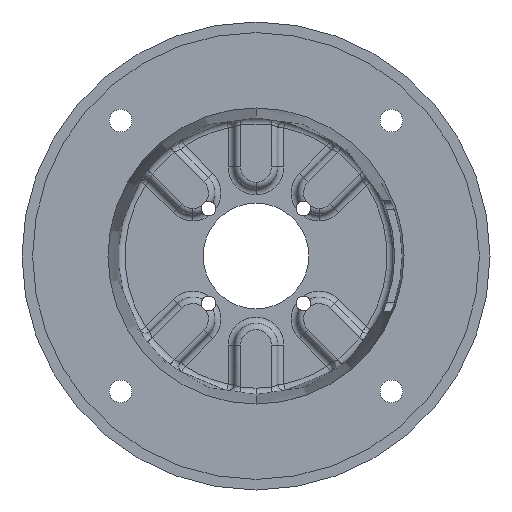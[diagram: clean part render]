
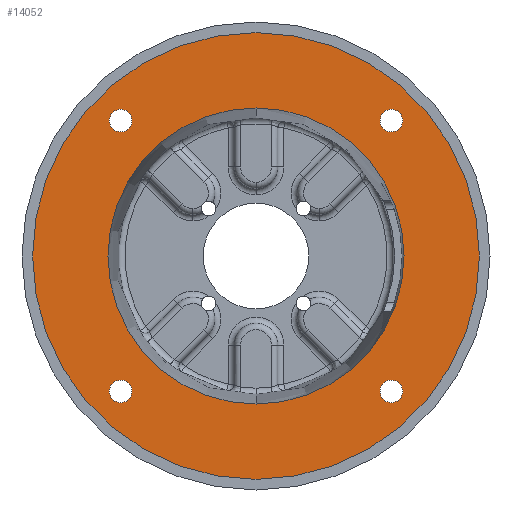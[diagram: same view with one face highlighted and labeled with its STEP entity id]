
A CAD part, front view. The second image highlights one B-rep face of the part: STEP entity #14052.
In plain terms, the highlighted planar face has unit normal (0, -1, 0).
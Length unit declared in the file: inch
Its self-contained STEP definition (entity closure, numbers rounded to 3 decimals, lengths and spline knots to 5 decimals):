
#286 = CIRCLE ( 'NONE', #4223, 0.26562 ) ;
#324 = CARTESIAN_POINT ( 'NONE',  ( 0., 0.18, -3.47973 ) ) ;
#483 = VERTEX_POINT ( 'NONE', #11186 ) ;
#559 = CARTESIAN_POINT ( 'NONE',  ( 3.18198, 0.18, -2.91636 ) ) ;
#675 = DIRECTION ( 'NONE',  ( 0., 0., -1. ) ) ;
#777 = CARTESIAN_POINT ( 'NONE',  ( 0., 0.18, 0. ) ) ;
#867 = ORIENTED_EDGE ( 'NONE', *, *, #4886, .F. ) ;
#986 = CARTESIAN_POINT ( 'NONE',  ( -3.18198, 0.18, -3.18198 ) ) ;
#989 = FACE_BOUND ( 'NONE', #10414, .T. ) ;
#1034 = CIRCLE ( 'NONE', #9663, 0.26562 ) ;
#1093 = ORIENTED_EDGE ( 'NONE', *, *, #2903, .T. ) ;
#1107 = VERTEX_POINT ( 'NONE', #2844 ) ;
#1192 = AXIS2_PLACEMENT_3D ( 'NONE', #12111, #5551, #13191 ) ;
#1578 = CIRCLE ( 'NONE', #9506, 3.47973 ) ;
#1613 = VERTEX_POINT ( 'NONE', #13560 ) ;
#1629 = EDGE_CURVE ( 'NONE', #9831, #2644, #5436, .T. ) ;
#1845 = EDGE_CURVE ( 'NONE', #13604, #7895, #1034, .T. ) ;
#1916 = DIRECTION ( 'NONE',  ( 0., 0., -1. ) ) ;
#1997 = DIRECTION ( 'NONE',  ( 0., -1., 0. ) ) ;
#2132 = DIRECTION ( 'NONE',  ( 0., 0., -1. ) ) ;
#2234 = CARTESIAN_POINT ( 'NONE',  ( 3.18198, 0.18, -3.18198 ) ) ;
#2554 = CARTESIAN_POINT ( 'NONE',  ( 3.18198, 0.18, -3.18198 ) ) ;
#2644 = VERTEX_POINT ( 'NONE', #324 ) ;
#2732 = ORIENTED_EDGE ( 'NONE', *, *, #12305, .F. ) ;
#2844 = CARTESIAN_POINT ( 'NONE',  ( 0., 0.18, -5.2505 ) ) ;
#2903 = EDGE_CURVE ( 'NONE', #1107, #3224, #5084, .T. ) ;
#2913 = ORIENTED_EDGE ( 'NONE', *, *, #10692, .T. ) ;
#3036 = CARTESIAN_POINT ( 'NONE',  ( 0., 0.18, 3.47973 ) ) ;
#3113 = AXIS2_PLACEMENT_3D ( 'NONE', #2234, #10033, #3375 ) ;
#3224 = VERTEX_POINT ( 'NONE', #7255 ) ;
#3375 = DIRECTION ( 'NONE',  ( 0., 0., -1. ) ) ;
#3627 = FACE_BOUND ( 'NONE', #11101, .T. ) ;
#3702 = DIRECTION ( 'NONE',  ( 0., 0., -1. ) ) ;
#3755 = CARTESIAN_POINT ( 'NONE',  ( -3.18198, 0.18, -3.18198 ) ) ;
#4223 = AXIS2_PLACEMENT_3D ( 'NONE', #986, #8846, #2132 ) ;
#4259 = AXIS2_PLACEMENT_3D ( 'NONE', #13859, #7409, #675 ) ;
#4263 = CARTESIAN_POINT ( 'NONE',  ( 3.18198, 0.18, -3.44761 ) ) ;
#4407 = EDGE_CURVE ( 'NONE', #7895, #13604, #7579, .T. ) ;
#4439 = PLANE ( 'NONE',  #1192 ) ;
#4592 = CIRCLE ( 'NONE', #8782, 5.2505 ) ;
#4653 = CARTESIAN_POINT ( 'NONE',  ( 3.18198, 0.18, 3.18198 ) ) ;
#4882 = DIRECTION ( 'NONE',  ( 0., 0., -1. ) ) ;
#4886 = EDGE_CURVE ( 'NONE', #12480, #11639, #9969, .T. ) ;
#5084 = CIRCLE ( 'NONE', #12882, 5.2505 ) ;
#5158 = DIRECTION ( 'NONE',  ( 0., -1., 0. ) ) ;
#5436 = CIRCLE ( 'NONE', #6080, 3.47973 ) ;
#5545 = CARTESIAN_POINT ( 'NONE',  ( 0., 0.18, 0. ) ) ;
#5551 = DIRECTION ( 'NONE',  ( 0., -1., 0. ) ) ;
#5556 = CARTESIAN_POINT ( 'NONE',  ( 3.18198, 0.18, 3.44761 ) ) ;
#5701 = DIRECTION ( 'NONE',  ( 0., -1., 0. ) ) ;
#5764 = ORIENTED_EDGE ( 'NONE', *, *, #4407, .F. ) ;
#5768 = DIRECTION ( 'NONE',  ( 0., 0., -1. ) ) ;
#6080 = AXIS2_PLACEMENT_3D ( 'NONE', #12321, #11471, #11422 ) ;
#6274 = EDGE_LOOP ( 'NONE', ( #13665, #9124 ) ) ;
#6341 = ORIENTED_EDGE ( 'NONE', *, *, #8541, .F. ) ;
#6417 = EDGE_LOOP ( 'NONE', ( #1093, #8635 ) ) ;
#6607 = FACE_OUTER_BOUND ( 'NONE', #6417, .T. ) ;
#6680 = DIRECTION ( 'NONE',  ( 0., 0., -1. ) ) ;
#6681 = CIRCLE ( 'NONE', #10774, 0.26562 ) ;
#6963 = FACE_BOUND ( 'NONE', #11749, .T. ) ;
#7255 = CARTESIAN_POINT ( 'NONE',  ( 0., 0.18, 5.2505 ) ) ;
#7308 = EDGE_CURVE ( 'NONE', #11639, #12480, #12963, .T. ) ;
#7409 = DIRECTION ( 'NONE',  ( 0., -1., 0. ) ) ;
#7579 = CIRCLE ( 'NONE', #10853, 0.26562 ) ;
#7895 = VERTEX_POINT ( 'NONE', #5556 ) ;
#8139 = AXIS2_PLACEMENT_3D ( 'NONE', #3755, #11466, #4882 ) ;
#8541 = EDGE_CURVE ( 'NONE', #483, #11115, #12768, .T. ) ;
#8635 = ORIENTED_EDGE ( 'NONE', *, *, #10629, .T. ) ;
#8641 = DIRECTION ( 'NONE',  ( 0., 1., 0. ) ) ;
#8711 = CARTESIAN_POINT ( 'NONE',  ( 3.18198, 0.18, 3.18198 ) ) ;
#8782 = AXIS2_PLACEMENT_3D ( 'NONE', #11727, #5158, #12814 ) ;
#8846 = DIRECTION ( 'NONE',  ( 0., -1., 0. ) ) ;
#8871 = AXIS2_PLACEMENT_3D ( 'NONE', #2554, #10347, #3702 ) ;
#9071 = EDGE_LOOP ( 'NONE', ( #12437, #867 ) ) ;
#9124 = ORIENTED_EDGE ( 'NONE', *, *, #14090, .F. ) ;
#9419 = VERTEX_POINT ( 'NONE', #13363 ) ;
#9506 = AXIS2_PLACEMENT_3D ( 'NONE', #777, #8641, #1916 ) ;
#9571 = FACE_BOUND ( 'NONE', #9071, .T. ) ;
#9663 = AXIS2_PLACEMENT_3D ( 'NONE', #4653, #12330, #5768 ) ;
#9812 = DIRECTION ( 'NONE',  ( 0., 0., -1. ) ) ;
#9831 = VERTEX_POINT ( 'NONE', #3036 ) ;
#9861 = ORIENTED_EDGE ( 'NONE', *, *, #1629, .T. ) ;
#9920 = ORIENTED_EDGE ( 'NONE', *, *, #1845, .F. ) ;
#9969 = CIRCLE ( 'NONE', #8871, 0.26562 ) ;
#10033 = DIRECTION ( 'NONE',  ( 0., -1., 0. ) ) ;
#10347 = DIRECTION ( 'NONE',  ( 0., -1., 0. ) ) ;
#10414 = EDGE_LOOP ( 'NONE', ( #2732, #6341 ) ) ;
#10629 = EDGE_CURVE ( 'NONE', #3224, #1107, #4592, .T. ) ;
#10692 = EDGE_CURVE ( 'NONE', #2644, #9831, #1578, .T. ) ;
#10774 = AXIS2_PLACEMENT_3D ( 'NONE', #12260, #5701, #13341 ) ;
#10853 = AXIS2_PLACEMENT_3D ( 'NONE', #8711, #1997, #9812 ) ;
#10979 = CARTESIAN_POINT ( 'NONE',  ( 3.18198, 0.18, 2.91636 ) ) ;
#11101 = EDGE_LOOP ( 'NONE', ( #2913, #9861 ) ) ;
#11115 = VERTEX_POINT ( 'NONE', #12048 ) ;
#11186 = CARTESIAN_POINT ( 'NONE',  ( -3.18198, 0.18, 3.44761 ) ) ;
#11422 = DIRECTION ( 'NONE',  ( 0., 0., -1. ) ) ;
#11466 = DIRECTION ( 'NONE',  ( 0., -1., 0. ) ) ;
#11471 = DIRECTION ( 'NONE',  ( 0., 1., 0. ) ) ;
#11639 = VERTEX_POINT ( 'NONE', #4263 ) ;
#11727 = CARTESIAN_POINT ( 'NONE',  ( 0., 0.18, 0. ) ) ;
#11749 = EDGE_LOOP ( 'NONE', ( #9920, #5764 ) ) ;
#12048 = CARTESIAN_POINT ( 'NONE',  ( -3.18198, 0.18, 2.91636 ) ) ;
#12111 = CARTESIAN_POINT ( 'NONE',  ( 0., 0.18, 0. ) ) ;
#12260 = CARTESIAN_POINT ( 'NONE',  ( -3.18198, 0.18, 3.18198 ) ) ;
#12305 = EDGE_CURVE ( 'NONE', #11115, #483, #6681, .T. ) ;
#12321 = CARTESIAN_POINT ( 'NONE',  ( 0., 0.18, 0. ) ) ;
#12330 = DIRECTION ( 'NONE',  ( 0., -1., 0. ) ) ;
#12407 = FACE_BOUND ( 'NONE', #6274, .T. ) ;
#12437 = ORIENTED_EDGE ( 'NONE', *, *, #7308, .F. ) ;
#12480 = VERTEX_POINT ( 'NONE', #559 ) ;
#12589 = EDGE_CURVE ( 'NONE', #9419, #1613, #12635, .T. ) ;
#12635 = CIRCLE ( 'NONE', #8139, 0.26562 ) ;
#12768 = CIRCLE ( 'NONE', #4259, 0.26562 ) ;
#12814 = DIRECTION ( 'NONE',  ( 0., 0., -1. ) ) ;
#12882 = AXIS2_PLACEMENT_3D ( 'NONE', #5545, #13183, #6680 ) ;
#12963 = CIRCLE ( 'NONE', #3113, 0.26562 ) ;
#13183 = DIRECTION ( 'NONE',  ( 0., -1., 0. ) ) ;
#13191 = DIRECTION ( 'NONE',  ( 0., 0., -1. ) ) ;
#13341 = DIRECTION ( 'NONE',  ( 0., 0., -1. ) ) ;
#13363 = CARTESIAN_POINT ( 'NONE',  ( -3.18198, 0.18, -3.44761 ) ) ;
#13560 = CARTESIAN_POINT ( 'NONE',  ( -3.18198, 0.18, -2.91636 ) ) ;
#13604 = VERTEX_POINT ( 'NONE', #10979 ) ;
#13665 = ORIENTED_EDGE ( 'NONE', *, *, #12589, .F. ) ;
#13859 = CARTESIAN_POINT ( 'NONE',  ( -3.18198, 0.18, 3.18198 ) ) ;
#14052 = ADVANCED_FACE ( 'NONE', ( #989, #6963, #9571, #12407, #6607, #3627 ), #4439, .T. ) ;
#14090 = EDGE_CURVE ( 'NONE', #1613, #9419, #286, .T. ) ;
